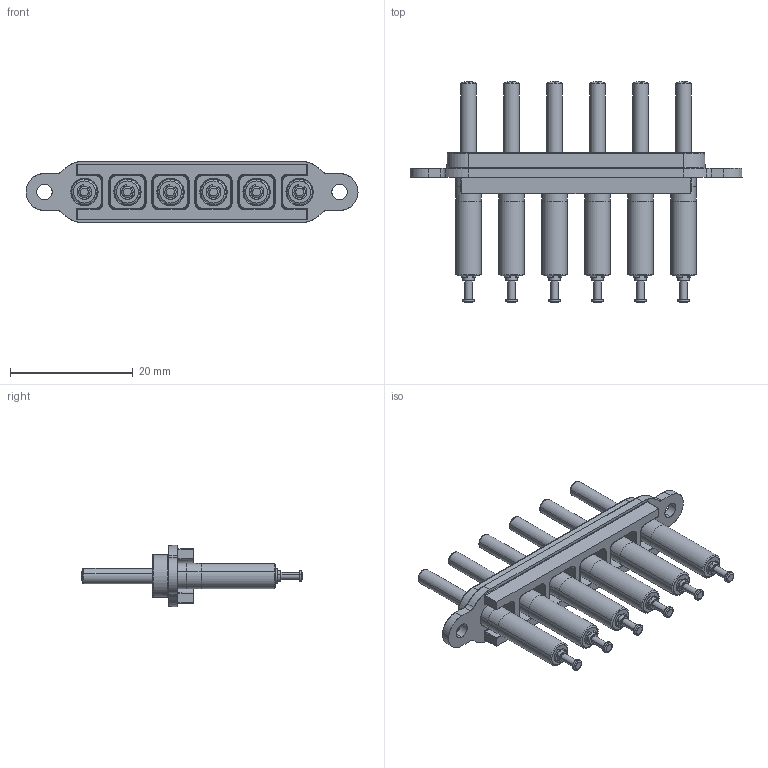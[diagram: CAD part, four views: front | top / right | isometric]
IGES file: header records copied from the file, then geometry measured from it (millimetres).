
Start section: SolidWorks IGES file using analytic representation for surfaces
Global section: file name: \\CODA-VM-SBS\RedirectedFolders\georged\My Documents\Coda\ICA Connectors\ICA-6-SCT.IGS; native system: SolidWorks 2022; preprocessor: SolidWorks 2022; author: GeorgeD; date: 230208.104027; units: millimetre
Bounding box: 54 x 35.95 x 10 mm (x, y, z)
Surface area: 4481.1 mm2 (no closed solid volume)
Topology: 0 solids, 0 shells, 650 faces, 5902 edges, 5896 vertices
Faces by surface type: bspline 374, revolution 276
